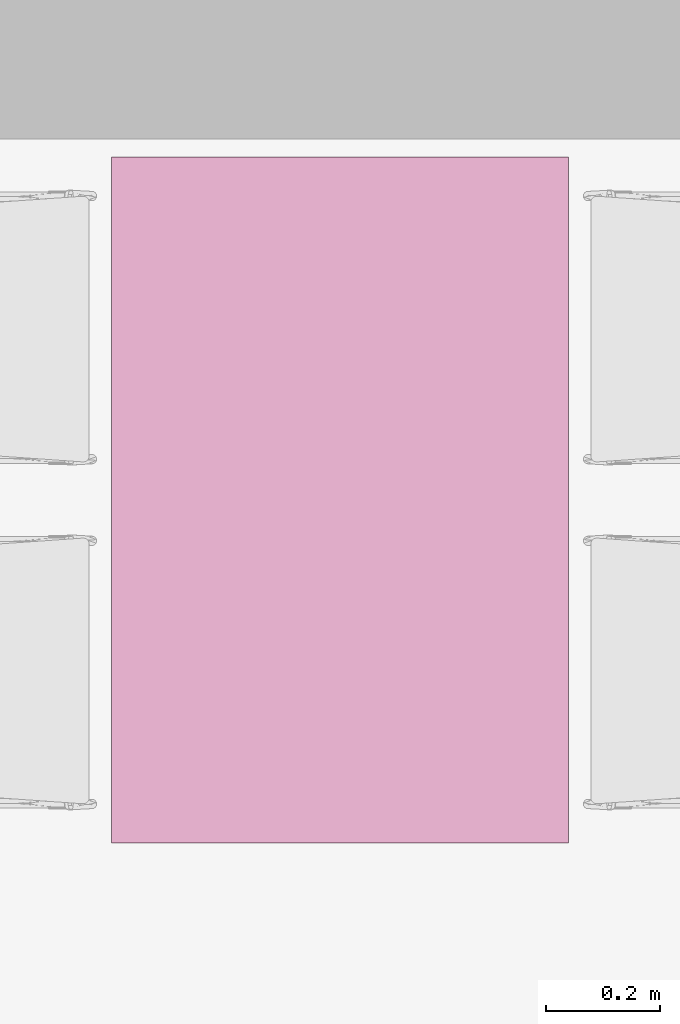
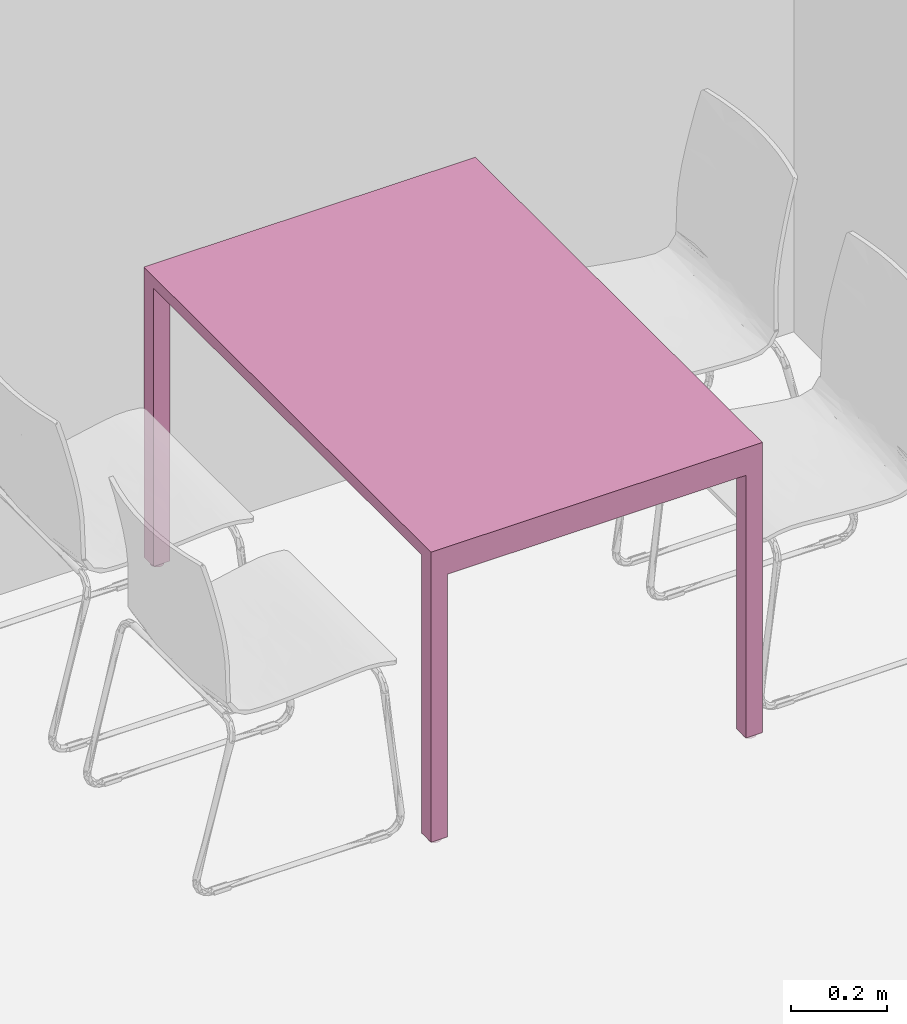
# One storey, part 33 of 46: 1 furnishing.
"""IFC2X3 building model written with IfcOpenShell, lengths in millimetres."""

from ifc_helpers import new_model, entity, si_unit, converted_unit, derived_unit, direction, frame, frame_2d, origin, origin_2d_with_axis, place, context, subcontext, project, spatial, polyline, rectangle, circle, outline, extrude, source, transform, mapped, material, material_list, type_object, type_shapes, element, save


model = new_model("IFC2X3")

# Units and contexts
model_context = context("Model", 3, precision=0.01, world=origin(), true_north=direction((6.12303176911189e-17, 1.0)))
body_context = subcontext(model_context, "Body", "Model", "MODEL_VIEW")
ifc_project = project(units=[si_unit("LENGTHUNIT", "METRE", prefix="MILLI"), si_unit("AREAUNIT", "SQUARE_METRE"), si_unit("VOLUMEUNIT", "CUBIC_METRE"), converted_unit("PLANEANGLEUNIT", "DEGREE", entity("IfcRatioMeasure", 0.0174532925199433), si_unit("PLANEANGLEUNIT", "RADIAN"), dimensions=[0, 0, 0, 0, 0, 0, 0]), si_unit("MASSUNIT", "GRAM", prefix="KILO"), derived_unit("MASSDENSITYUNIT", [(si_unit("MASSUNIT", "GRAM", prefix="KILO"), 1), (si_unit("LENGTHUNIT", "METRE"), -3)]), si_unit("TIMEUNIT", "SECOND"), si_unit("FREQUENCYUNIT", "HERTZ"), si_unit("THERMODYNAMICTEMPERATUREUNIT", "DEGREE_CELSIUS"), derived_unit("THERMALTRANSMITTANCEUNIT", [(si_unit("MASSUNIT", "GRAM", prefix="KILO"), 1), (si_unit("THERMODYNAMICTEMPERATUREUNIT", "KELVIN"), -1), (si_unit("TIMEUNIT", "SECOND"), -3)]), derived_unit("VOLUMETRICFLOWRATEUNIT", [(si_unit("LENGTHUNIT", "METRE"), 3), (si_unit("TIMEUNIT", "SECOND"), -1)]), si_unit("ELECTRICCURRENTUNIT", "AMPERE"), si_unit("ELECTRICVOLTAGEUNIT", "VOLT"), si_unit("POWERUNIT", "WATT"), si_unit("FORCEUNIT", "NEWTON", prefix="KILO"), si_unit("ILLUMINANCEUNIT", "LUX"), si_unit("LUMINOUSFLUXUNIT", "LUMEN"), si_unit("LUMINOUSINTENSITYUNIT", "CANDELA"), derived_unit("USERDEFINED", [(si_unit("MASSUNIT", "GRAM", prefix="KILO"), -1), (si_unit("LENGTHUNIT", "METRE"), -2), (si_unit("TIMEUNIT", "SECOND"), 3), (si_unit("LUMINOUSFLUXUNIT", "LUMEN"), 1)]), derived_unit("LINEARVELOCITYUNIT", [(si_unit("LENGTHUNIT", "METRE"), 1), (si_unit("TIMEUNIT", "SECOND"), -1)]), si_unit("PRESSUREUNIT", "PASCAL"), derived_unit("USERDEFINED", [(si_unit("LENGTHUNIT", "METRE"), -2), (si_unit("MASSUNIT", "GRAM", prefix="KILO"), 1), (si_unit("TIMEUNIT", "SECOND"), -2)]), derived_unit("LINEARFORCEUNIT", [(si_unit("MASSUNIT", "GRAM", prefix="KILO"), 1), (si_unit("LENGTHUNIT", "METRE"), 1), (si_unit("TIMEUNIT", "SECOND"), -2), (si_unit("LENGTHUNIT", "METRE"), -1)]), derived_unit("PLANARFORCEUNIT", [(si_unit("MASSUNIT", "GRAM", prefix="KILO"), 1), (si_unit("LENGTHUNIT", "METRE"), 1), (si_unit("TIMEUNIT", "SECOND"), -2), (si_unit("LENGTHUNIT", "METRE"), -2)])], contexts=[model_context])

# Site, building, storey, space
site_placement = place(None, origin())
site = spatial("IfcSite", under=ifc_project, at=site_placement, Name="Default", CompositionType="ELEMENT")
building_placement = place(site_placement, origin())
building = spatial("IfcBuilding", under=site, at=building_placement, Name="SMA ARH", CompositionType="ELEMENT")
storey_placement = place(building_placement, frame((0.0, 0.0, 9910.0)))
storey = spatial("IfcBuildingStorey", under=building, at=storey_placement, Name="4 Korrus", CompositionType="ELEMENT", Elevation=9909.9999999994)
space_placement = place(storey_placement, origin())
space = spatial("IfcSpace", under=storey, at=space_placement, Name="4-10", CompositionType="ELEMENT", InteriorOrExteriorSpace="INTERNAL")

# Furnishing
ifc_material_1 = material(Name="Metal - Stud Layer")
ifc_material_2 = material(Name="<Unnamed>")
ifc_material_list = material_list([ifc_material_1, ifc_material_2])
furniture_type = type_object("IfcFurnitureType", Name="laud_1200x800:laud_1200x800", material=ifc_material_list)
shared_shape = source(origin(), body_context, "Body", "SweptSolid", [
    extrude(rectangle(XDim=800.0, YDim=1200.0, at=origin_2d_with_axis()), frame((-150.0, 550.0, 720.0), z_axis=(0.0, 0.0, 1.0), x_axis=(-1.0, 0.0, 0.0)), (0.0, 0.0, 1.0), 29.9999999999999),
    extrude(outline(polyline([(-400.0, -365.0), (400.0, -365.0), (400.0, 345.0), (360.0, 345.0), (360.0, -325.0), (-360.0, -325.0), (-360.0, 345.0), (-400.0, 345.0), (-400.0, -365.0)])), frame((-150.0, -50.0, 355.0), z_axis=(0.0, 1.0, 0.0), x_axis=(1.0, 0.0, 0.0)), (0.0, 0.0, 1.0), 40.0000000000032),
    extrude(outline(polyline([(-400.0, -365.0), (400.0, -365.0), (400.0, 345.0), (360.0, 345.0), (360.0, -325.0), (-360.0, -325.0), (-360.0, 345.0), (-400.0, 345.0), (-400.0, -365.0)])), frame((-150.0, 1110.0, 355.0), z_axis=(0.0, 1.0, 0.0), x_axis=(1.0, 0.0, 0.0)), (0.0, 0.0, 1.0), 40.0000000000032),
    extrude(circle(Radius=15.0, at=frame_2d((0.0, 5.07593966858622e-14), x_axis=(1.0, 0.0))), frame((-529.847171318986, -29.9550233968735, 0.0)), (0.0, 0.0, 1.0), 10.0),
    extrude(circle(Radius=15.0, at=origin_2d_with_axis()), frame((-529.847171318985, 1129.95502339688, 0.0)), (0.0, 0.0, 1.0), 10.0),
    extrude(circle(Radius=15.0, at=origin_2d_with_axis()), frame((230.152828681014, -29.9550233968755, 0.0)), (0.0, 0.0, 1.0), 10.0),
    extrude(circle(Radius=15.0, at=origin_2d_with_axis()), frame((230.152828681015, 1129.95502339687, 0.0)), (0.0, 0.0, 1.0), 10.0),
])
type_shapes(furniture_type, [shared_shape])
furnishing_placement = place(space_placement, frame((27294.0, 4828.49999999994, 0.0)))
element("IfcFurnishingElement", 1, at=furnishing_placement, inside=space, type_object=furniture_type, material=ifc_material_1, Name="laud_1200x800:laud_1200x800", ObjectType="laud_1200x800:laud_1200x800", context=body_context, shape_type="MappedRepresentation", body=[
    mapped(shared_shape, transform((0.0, 0.0, 0.0), scale=1.0)),
])

save(model, "model.ifc")
